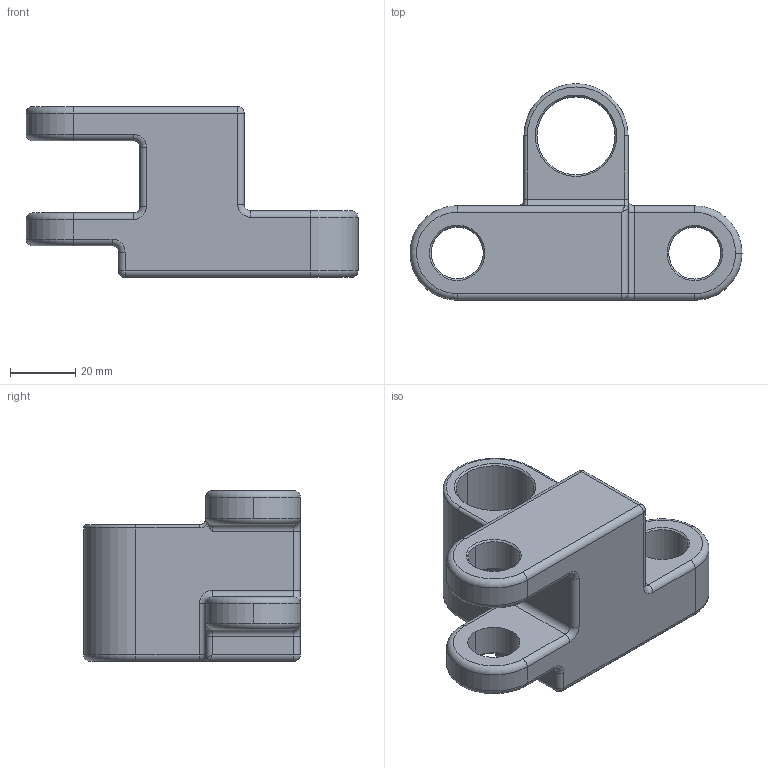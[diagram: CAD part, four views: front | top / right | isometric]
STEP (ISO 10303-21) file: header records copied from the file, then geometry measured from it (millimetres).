
FILE_DESCRIPTION (( 'STEP AP203' ), '1' );
FILE_NAME ('YYDK-500-0063 藷蒛盓殤(500T).STEP', '2026-03-14T06:55:34', ( 'Windows 蚚誧' ), ( '' ), 'SwSTEP 2.0', 'SolidWorks 2020', '' );
FILE_SCHEMA (( 'CONFIG_CONTROL_DESIGN' ));
Length unit declared in the file: millimetre
Products named in the file (1): YYDK-500-0063 藷蒛盓殤(500T)
Bounding box: 102 x 66.5 x 52.49 mm (x, y, z)
Volume: 106443.8 mm3; surface area: 23157.7 mm2
Topology: 1 solids, 1 shells, 97 faces, 231 edges, 131 vertices
Faces by surface type: cylinder 45, torus 21, plane 14, cone 12, bspline 3, sphere 2
Entity records: 2998 total; most frequent: CARTESIAN_POINT 641, DIRECTION 532, ORIENTED_EDGE 452, EDGE_CURVE 226, AXIS2_PLACEMENT_3D 220, VERTEX_POINT 131, CIRCLE 125, EDGE_LOOP 105
